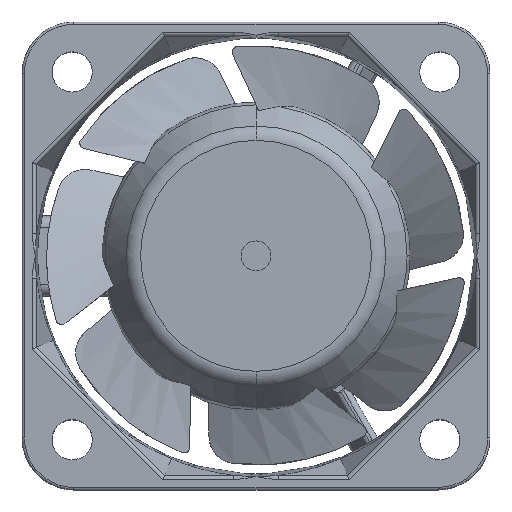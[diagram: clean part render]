
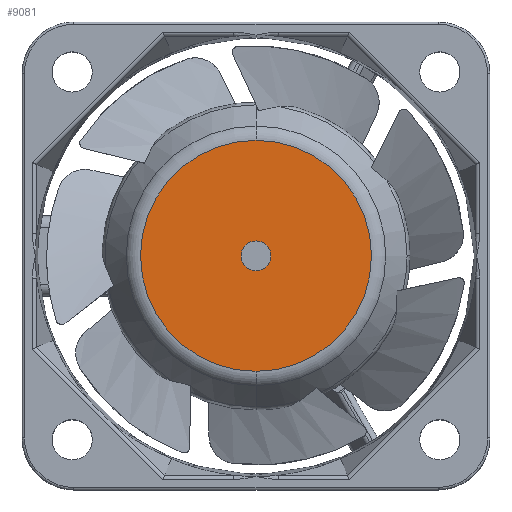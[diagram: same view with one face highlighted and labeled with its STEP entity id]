
A CAD part, top view. The second image highlights one B-rep face of the part: STEP entity #9081.
In plain terms, the highlighted planar face has unit normal (0, 0, 1).
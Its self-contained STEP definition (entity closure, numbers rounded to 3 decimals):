
#235 = CARTESIAN_POINT ( 'NONE',  ( 0., 0., 15.2 ) ) ;
#301 = VERTEX_POINT ( 'NONE', #5293 ) ;
#312 = EDGE_CURVE ( 'NONE', #301, #7502, #1507, .T. ) ;
#884 = CIRCLE ( 'NONE', #7384, 10.05 ) ;
#1507 = CIRCLE ( 'NONE', #7924, 10.05 ) ;
#1737 = EDGE_CURVE ( 'NONE', #7502, #301, #884, .T. ) ;
#1898 = AXIS2_PLACEMENT_3D ( 'NONE', #2860, #9500, #3807 ) ;
#2093 = DIRECTION ( 'NONE',  ( 0., 0., -1. ) ) ;
#2860 = CARTESIAN_POINT ( 'NONE',  ( 0., 0., 15.2 ) ) ;
#3027 = PLANE ( 'NONE',  #9030 ) ;
#3807 = DIRECTION ( 'NONE',  ( 1., 0., 0. ) ) ;
#3823 = VERTEX_POINT ( 'NONE', #11679 ) ;
#4257 = AXIS2_PLACEMENT_3D ( 'NONE', #7783, #2093, #8743 ) ;
#4347 = FACE_OUTER_BOUND ( 'NONE', #11133, .T. ) ;
#4782 = ORIENTED_EDGE ( 'NONE', *, *, #10700, .T. ) ;
#4953 = DIRECTION ( 'NONE',  ( 1., 0., 0. ) ) ;
#4962 = DIRECTION ( 'NONE',  ( 0., -1., 0. ) ) ;
#5293 = CARTESIAN_POINT ( 'NONE',  ( 0., 10.05, 15.2 ) ) ;
#5485 = CARTESIAN_POINT ( 'NONE',  ( 0., 0., 15.2 ) ) ;
#5907 = DIRECTION ( 'NONE',  ( 0., 0., -1. ) ) ;
#7009 = VERTEX_POINT ( 'NONE', #8102 ) ;
#7384 = AXIS2_PLACEMENT_3D ( 'NONE', #5485, #11683, #11640 ) ;
#7502 = VERTEX_POINT ( 'NONE', #8952 ) ;
#7742 = EDGE_CURVE ( 'NONE', #3823, #7009, #12252, .T. ) ;
#7783 = CARTESIAN_POINT ( 'NONE',  ( 0., 0., 15.2 ) ) ;
#7797 = CARTESIAN_POINT ( 'NONE',  ( 0., 0., 15.2 ) ) ;
#7924 = AXIS2_PLACEMENT_3D ( 'NONE', #235, #5907, #4962 ) ;
#8102 = CARTESIAN_POINT ( 'NONE',  ( -1.3, 0., 15.2 ) ) ;
#8622 = CIRCLE ( 'NONE', #1898, 1.3 ) ;
#8743 = DIRECTION ( 'NONE',  ( 1., 0., 0. ) ) ;
#8840 = ORIENTED_EDGE ( 'NONE', *, *, #312, .F. ) ;
#8952 = CARTESIAN_POINT ( 'NONE',  ( 0., -10.05, 15.2 ) ) ;
#9030 = AXIS2_PLACEMENT_3D ( 'NONE', #7797, #10651, #4953 ) ;
#9081 = ADVANCED_FACE ( 'NONE', ( #4347, #11913 ), #3027, .T. ) ;
#9500 = DIRECTION ( 'NONE',  ( 0., 0., -1. ) ) ;
#9575 = EDGE_LOOP ( 'NONE', ( #11543, #4782 ) ) ;
#10651 = DIRECTION ( 'NONE',  ( 0., 0., 1. ) ) ;
#10700 = EDGE_CURVE ( 'NONE', #7009, #3823, #8622, .T. ) ;
#11133 = EDGE_LOOP ( 'NONE', ( #11325, #8840 ) ) ;
#11325 = ORIENTED_EDGE ( 'NONE', *, *, #1737, .F. ) ;
#11543 = ORIENTED_EDGE ( 'NONE', *, *, #7742, .T. ) ;
#11640 = DIRECTION ( 'NONE',  ( 0., -1., 0. ) ) ;
#11679 = CARTESIAN_POINT ( 'NONE',  ( 1.3, 0., 15.2 ) ) ;
#11683 = DIRECTION ( 'NONE',  ( 0., 0., -1. ) ) ;
#11913 = FACE_BOUND ( 'NONE', #9575, .T. ) ;
#12252 = CIRCLE ( 'NONE', #4257, 1.3 ) ;
